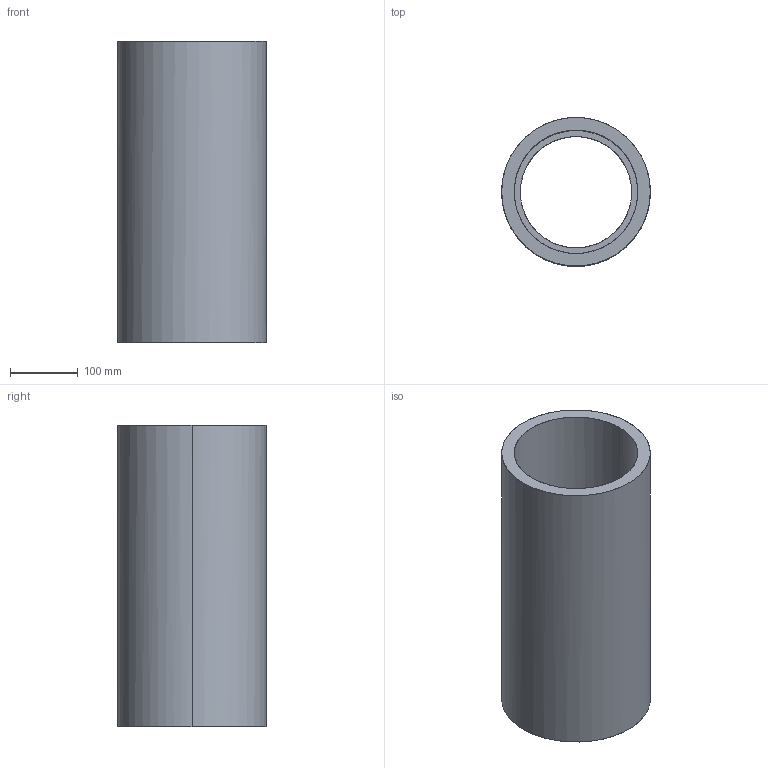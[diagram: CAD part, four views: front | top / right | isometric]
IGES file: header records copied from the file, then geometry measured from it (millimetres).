
Start section: C
Global section: file name: quartz_window_sleeve.igs; native system:  By UGS Corp.; preprocessor: XPlus GENERIC/IGES 3.0; author: Author; organization: Title; date: 20110219.170120; units: millimetre
Bounding box: 219.07 x 218.53 x 444.5 mm (x, y, z)
Surface area: 596410.4 mm2 (no closed solid volume)
Topology: 0 solids, 0 shells, 35 faces, 140 edges, 140 vertices
Faces by surface type: bspline 35
